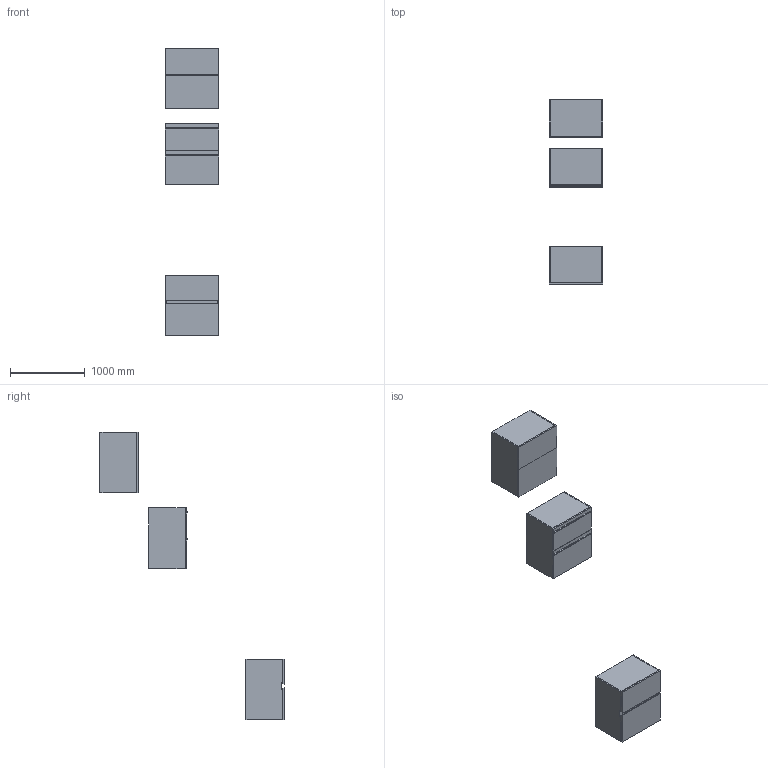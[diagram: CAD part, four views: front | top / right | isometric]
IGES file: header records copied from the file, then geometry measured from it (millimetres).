
Start section: Data from Parasolid IGES Translator 19.0.9, Copyright(c) 2006 Siemens PL M Software. All Rights Reserved.
Global section: file name: noorth-SI-H 81,2 D 51 W 72_9730.igs; native system: By Siemens PLM Incorporated; preprocessor: XPlus GENERIC/IGES 19.0.9; author: Noname; organization: Noname; date: 20200601.141549; units: metre
Bounding box: 720 x 2458 x 3842 mm (x, y, z)
Volume: 107736603.5 mm3; surface area: 16429251.4 mm2
Topology: 24 solids, 24 shells, 248 faces, 544 edges, 324 vertices
Faces by surface type: plane 164, extrusion 36, bspline 32, cylinder 16
